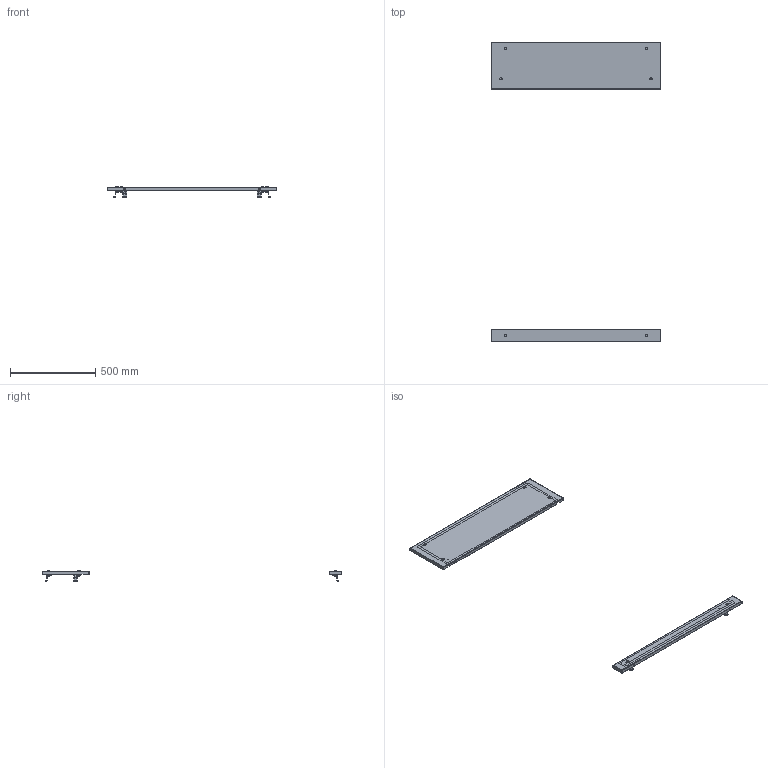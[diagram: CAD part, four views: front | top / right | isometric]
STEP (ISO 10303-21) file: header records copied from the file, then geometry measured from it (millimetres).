
FILE_DESCRIPTION(('CAx-IF Rec.Pracs.---Model Styling and Organization---1.2---2011-12-15','CAx-IF Rec.Pracs.---Geometric and Assembly Validation Properties---4.1---2014-06-16','CAx-IF Rec.Pracs.---PMI Polyline Presentation---2.0---2013-05-24'),'2;1');
FILE_NAME('R5CPFBM1031.stp','2021-05-06T03:35:43+03:00',(''),(''),'STEP Interface 4.4 by CT CoreTechnologie','3D_Evolution4.4 by CT CoreTechnologie','');
FILE_SCHEMA(('AUTOMOTIVE_DESIGN { 1 0 10303 214 1 1 1 1 }'));
Length unit declared in the file: millimetre
Products named in the file (14): R5CPFBM1031; AC00C172_AC00C172; M6x16-DIN 7985 ISR_thread; A1100001; RB.0736.00.00.0 ÑÁ_-07; AC00C061_AC00C061; RB.0736.00.01.0_-07; PF 7x14 R5CPFAM_- 300x1000; Ì6õ12-A5100231_straight; RB.0544.00.00.1_-01; RB.0544.00.00.1_-00; RB.0736.00.00.0 ÑÁ_-03; RB.0736.00.01.0_-03; PF 7x14 R5CPFAM_- 100x1000
Assembly tree (34 placements, depth 3):
  R5CPFBM1031
    AC00C172_AC00C172  x6
    M6x16-DIN 7985 ISR_thread  x6
    A1100001  x6
    RB.0736.00.00.0 ÑÁ_-07
      AC00C061_AC00C061
      RB.0736.00.01.0_-07
      PF 7x14 R5CPFAM_- 300x1000
      Ì6õ12-A5100231_straight
    RB.0544.00.00.1_-01  x3
    RB.0544.00.00.1_-00  x3
    RB.0736.00.00.0 ÑÁ_-03
      AC00C061_AC00C061
      Ì6õ12-A5100231_straight
      RB.0736.00.01.0_-03
      PF 7x14 R5CPFAM_- 100x1000
Bounding box: 994 x 1754 x 61 mm (x, y, z)
Surface area: 1056379.8 mm2 (no closed solid volume)
Topology: 0 solids, 48 shells, 760 faces, 1940 edges, 1280 vertices
Faces by surface type: plane 494, cylinder 206, bspline 60
Entity records: 11590 total; most frequent: CARTESIAN_POINT 2852, ORIENTED_EDGE 1620, DIRECTION 1597, EDGE_CURVE 810, VECTOR 583, LINE 583, VERTEX_POINT 528, AXIS2_PLACEMENT_3D 507
